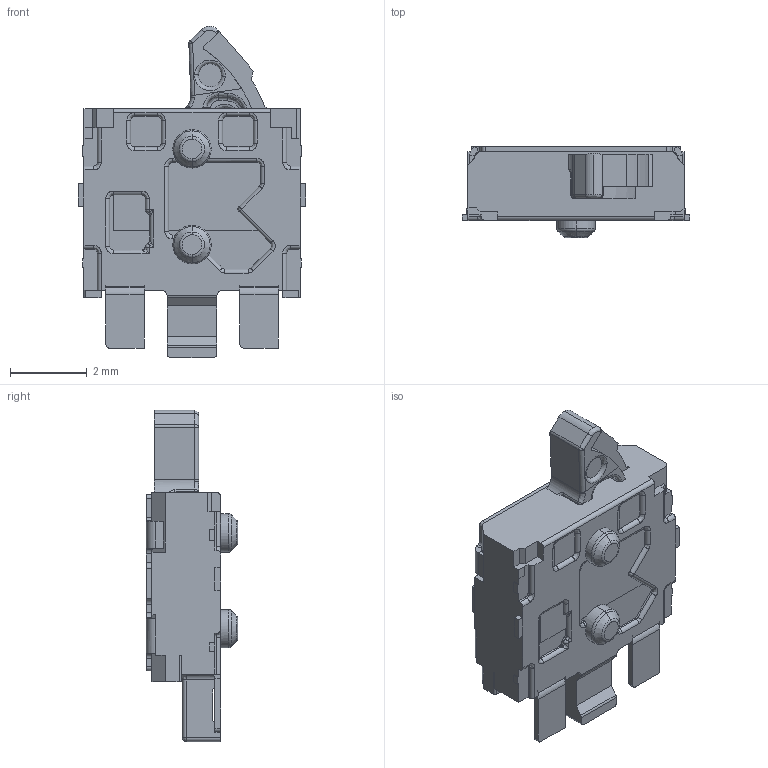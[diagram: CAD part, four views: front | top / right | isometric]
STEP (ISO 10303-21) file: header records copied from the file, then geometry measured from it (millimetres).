
FILE_DESCRIPTION (( 'STEP AP214' ), '1' );
FILE_NAME ('SPVT240101.STEP', '2011-03-28T08:18:45', ( '' ), ( '' ), 'SwSTEP 2.0', 'SolidWorks 2007', '' );
FILE_SCHEMA (( 'AUTOMOTIVE_DESIGN' ));
Length unit declared in the file: millimetre
Products named in the file (1): SPVT240101
Bounding box: 5.94 x 2.39 x 8.65 mm (x, y, z)
Volume: 55.5 mm3; surface area: 127.7 mm2
Topology: 1 solids, 1 shells, 403 faces, 1074 edges, 665 vertices
Faces by surface type: plane 202, cylinder 125, bspline 65, cone 11
Entity records: 15488 total; most frequent: CARTESIAN_POINT 4062, ORIENTED_EDGE 2132, DIRECTION 1888, EDGE_CURVE 1066, VECTOR 676, LINE 676, VERTEX_POINT 665, AXIS2_PLACEMENT_3D 606
